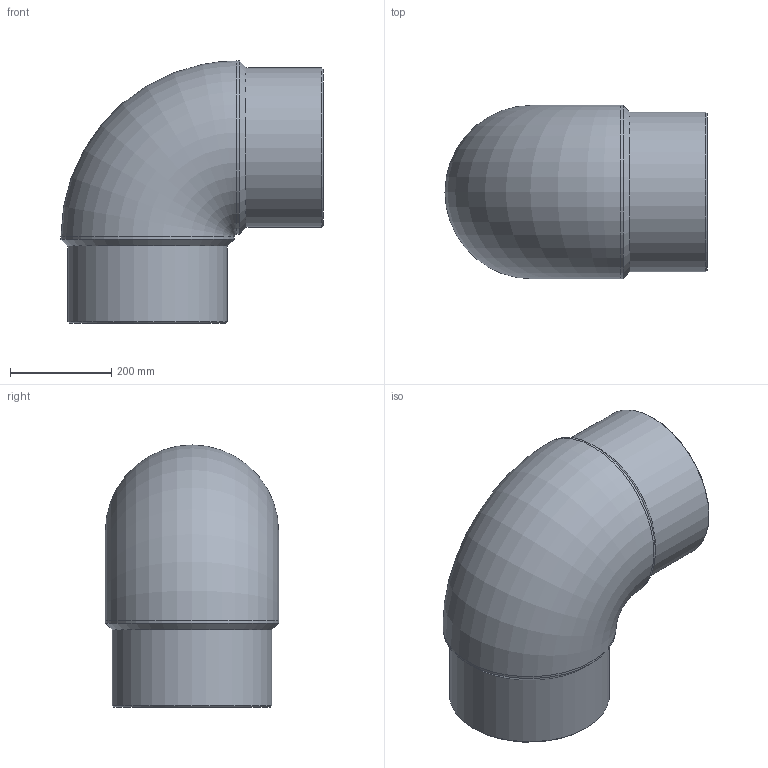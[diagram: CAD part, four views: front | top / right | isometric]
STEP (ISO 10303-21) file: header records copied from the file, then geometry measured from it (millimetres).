
FILE_DESCRIPTION(/* description */ ('Unknown'),/* implementation_level */ '2;1');
FILE_NAME(/* name */ 'G9P315G',/* time_stamp */ '2021-11-29T10:31:48+01:00',/* author */ ('Unknown'),/* organization */ ('Unknown'),/* preprocessor_version */ 'ST-DEVELOPER v16.7',/* originating_system */ 'Solid Edge',/* authorisation */ 'Unknown');
FILE_SCHEMA (('AUTOMOTIVE_DESIGN {1 0 10303 214 3 1 1}'));
Length unit declared in the file: millimetre
Products named in the file (1): G9P315G
Bounding box: 517 x 342 x 517 mm (x, y, z)
Volume: 23595157.1 mm3; surface area: 1181869 mm2
Topology: 1 solids, 1 shells, 14 faces, 34 edges, 22 vertices
Faces by surface type: cylinder 6, cone 4, plane 2, torus 2
Full cylindrical faces by diameter (mm): 244.6 x2, 315 x2, 342 x2
Entity records: 380 total; most frequent: CARTESIAN_POINT 80, DIRECTION 60, ORIENTED_EDGE 38, AXIS2_PLACEMENT_3D 30, EDGE_LOOP 27, FACE_BOUND 27, EDGE_CURVE 19, VERTEX_POINT 18
